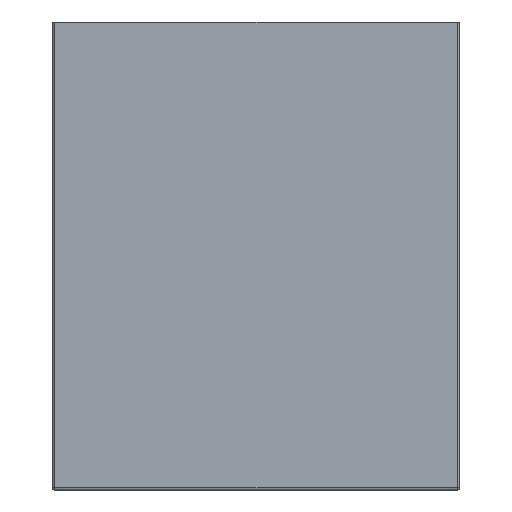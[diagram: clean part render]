
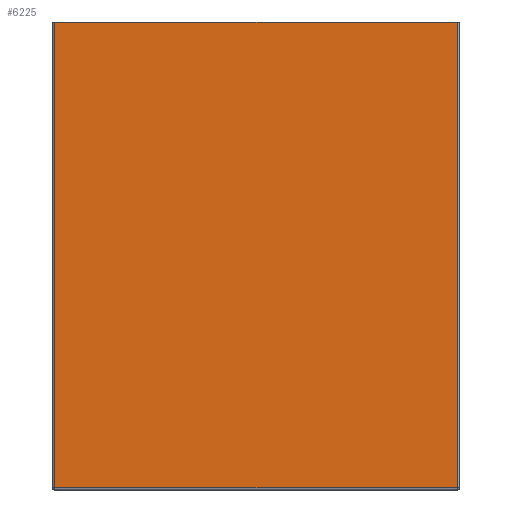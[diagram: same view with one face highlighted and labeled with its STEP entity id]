
A CAD part, left-side view. The second image highlights one B-rep face of the part: STEP entity #6225.
In plain terms, the highlighted planar face has unit normal (-1, 0, 0).
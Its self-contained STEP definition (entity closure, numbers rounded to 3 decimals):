
#6207=AXIS2_PLACEMENT_3D('Plane Axis2P3D',#6204,#6205,#6206) ;
#5817=CARTESIAN_POINT('Vertex',(-600.,-398.,460.)) ;
#5843=CARTESIAN_POINT('Vertex',(-600.,-2.,460.)) ;
#5846=CARTESIAN_POINT('Line Origine',(-600.,-200.,460.)) ;
#6017=CARTESIAN_POINT('Line Origine',(-600.,-105.,2.)) ;
#6021=CARTESIAN_POINT('Vertex',(-600.,-398.,2.)) ;
#6023=CARTESIAN_POINT('Vertex',(-600.,-2.,2.)) ;
#6204=CARTESIAN_POINT('Axis2P3D Location',(-600.,0.,0.)) ;
#6209=CARTESIAN_POINT('Line Origine',(-600.,-398.,231.)) ;
#6214=CARTESIAN_POINT('Line Origine',(-600.,-2.,231.)) ;
#5847=DIRECTION('Vector Direction',(0.,-1.,0.)) ;
#6018=DIRECTION('Vector Direction',(0.,1.,0.)) ;
#6205=DIRECTION('Axis2P3D Direction',(1.,0.,-0.)) ;
#6206=DIRECTION('Axis2P3D XDirection',(0.,0.,1.)) ;
#6210=DIRECTION('Vector Direction',(0.,0.,1.)) ;
#6215=DIRECTION('Vector Direction',(0.,0.,1.)) ;
#5848=VECTOR('Line Direction',#5847,1.) ;
#6019=VECTOR('Line Direction',#6018,1.) ;
#6211=VECTOR('Line Direction',#6210,1.) ;
#6216=VECTOR('Line Direction',#6215,1.) ;
#6220=ORIENTED_EDGE('',*,*,#6213,.T.) ;
#6221=ORIENTED_EDGE('',*,*,#5850,.T.) ;
#6222=ORIENTED_EDGE('',*,*,#6218,.F.) ;
#6223=ORIENTED_EDGE('',*,*,#6025,.F.) ;
#6225=ADVANCED_FACE('STRUTTURA',(#6224),#6208,.F.) ;
#5850=EDGE_CURVE('',#5818,#5844,#5849,.F.) ;
#6025=EDGE_CURVE('',#6022,#6024,#6020,.T.) ;
#6213=EDGE_CURVE('',#6022,#5818,#6212,.T.) ;
#6218=EDGE_CURVE('',#6024,#5844,#6217,.T.) ;
#6219=EDGE_LOOP('',(#6220,#6221,#6222,#6223)) ;
#6224=FACE_OUTER_BOUND('',#6219,.T.) ;
#5849=LINE('Line',#5846,#5848) ;
#6020=LINE('Line',#6017,#6019) ;
#6212=LINE('Line',#6209,#6211) ;
#6217=LINE('Line',#6214,#6216) ;
#6208=PLANE('Plane',#6207) ;
#5818=VERTEX_POINT('',#5817) ;
#5844=VERTEX_POINT('',#5843) ;
#6022=VERTEX_POINT('',#6021) ;
#6024=VERTEX_POINT('',#6023) ;
